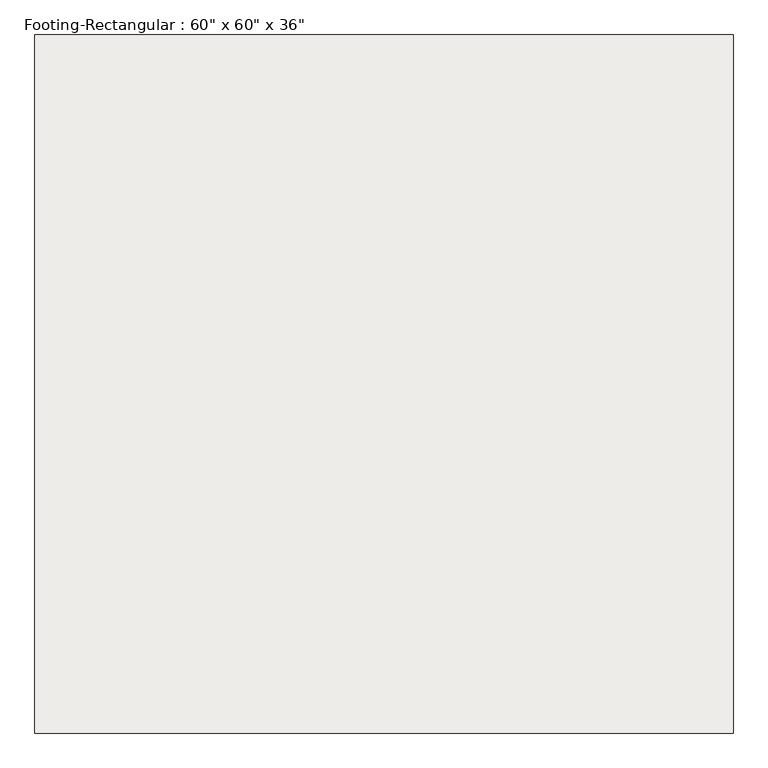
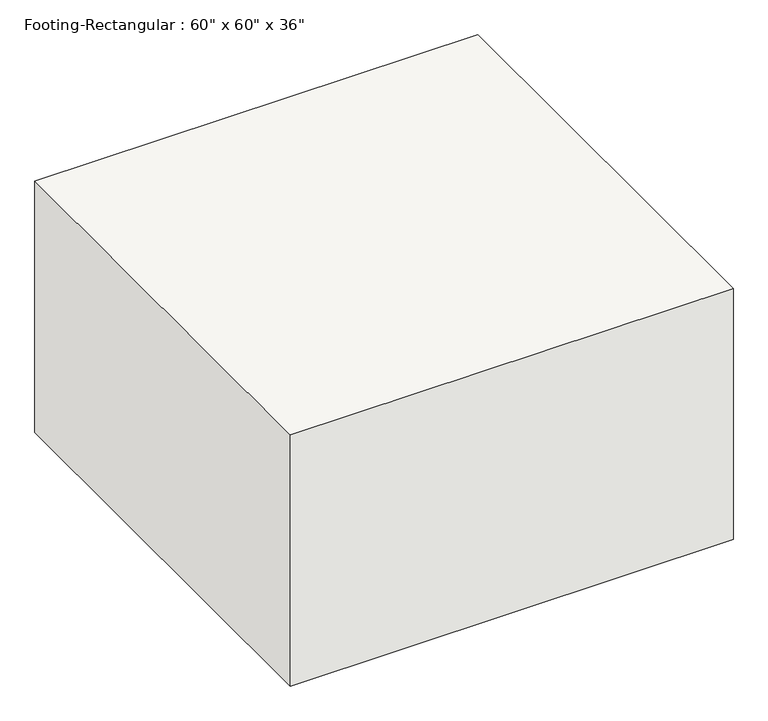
"""IFC4 building model written with IfcOpenShell, lengths in millimetres: slab geometry."""

from ifc_helpers import new_model, si_unit, frame, origin, place, context, project, spatial, polyline, outline, extrude, source, transform, mapped, element, save


def slab_a75956b3(model_context):
    return source(origin(), model_context, "Body", "SweptSolid", [
        extrude(outline(polyline([(762.0, 762.0), (762.0, -762.0), (-762.0, -762.0), (-762.0, 762.0), (762.0, 762.0)])), frame((0.0, 0.0, -914.4), z_axis=(0.0, 0.0, 1.0), x_axis=(1.0, 0.0, 0.0)), (0.0, 0.0, 1.0), 914.4),
    ])


if __name__ == "__main__":
    model = new_model("IFC4")
    model_context = context("Model", 3, world=origin())
    ifc_project = project(units=[si_unit("LENGTHUNIT", "METRE", prefix="MILLI")], contexts=[model_context])
    site = spatial("IfcSite", under=ifc_project)
    building = spatial("IfcBuilding", under=site)
    placement = place(None, origin())
    slab_shape = slab_a75956b3(model_context)
    element("IfcSlab", 1, ObjectType="Footing-Rectangular : 60\" x 60\" x 36\"", at=placement, inside=building, context=model_context, shape_type="MappedRepresentation", body=[
        mapped(slab_shape, transform((0.0, 0.0, 0.0), x_axis=(1.0, 0.0, 0.0), y_axis=(0.0, 1.0, 0.0), z_axis=(0.0, 0.0, 1.0))),
    ])
    save(model, "model.ifc")
